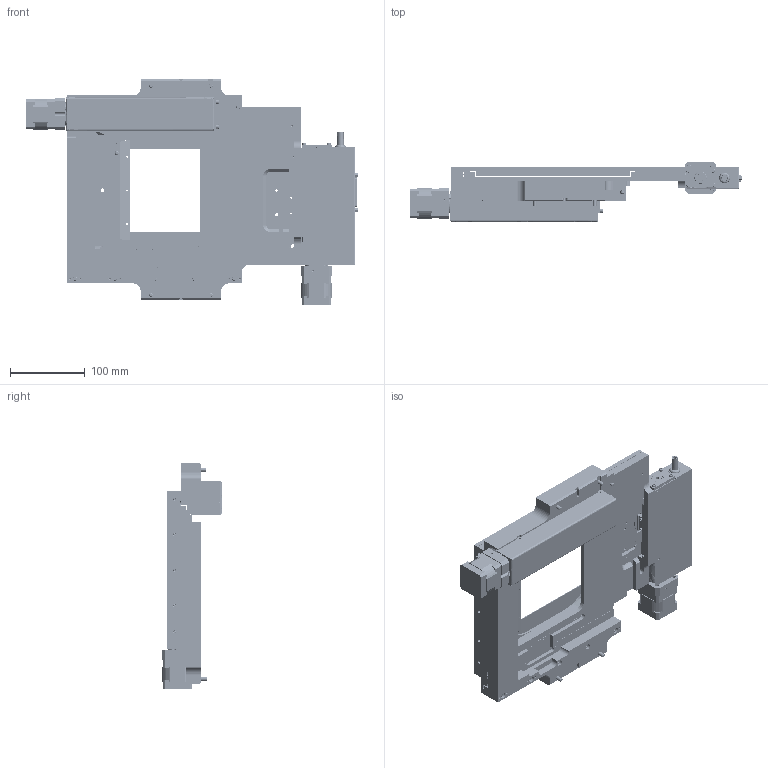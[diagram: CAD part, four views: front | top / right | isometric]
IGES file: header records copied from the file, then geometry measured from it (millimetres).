
Start section: SolidWorks IGES file using analytic representation for surfaces
Global section: file name: C:\1-DATA-FILES-FOR-PROJECTS\2022-PRODUCT-REFERENCE-MODELS\1-STAGE-REFERENCE-MODELS\H117P1N4-STAGE-REFERENCE-MODELS\2-H117P1N4-UK-REFERENCE-MODEL-PARTS\H117P1N4_REFERENCE-IGES.IGS; native system: SolidWorks 2019; preprocessor: SolidWorks 2019; author: jwilliams; date: 220131.110938; units: inch
Bounding box: 444.2 x 80.2 x 302.3 mm (x, y, z)
Surface area: 677727.9 mm2 (no closed solid volume)
Topology: 0 solids, 0 shells, 5245 faces, 65020 edges, 64780 vertices
Faces by surface type: bspline 2949, revolution 2296
